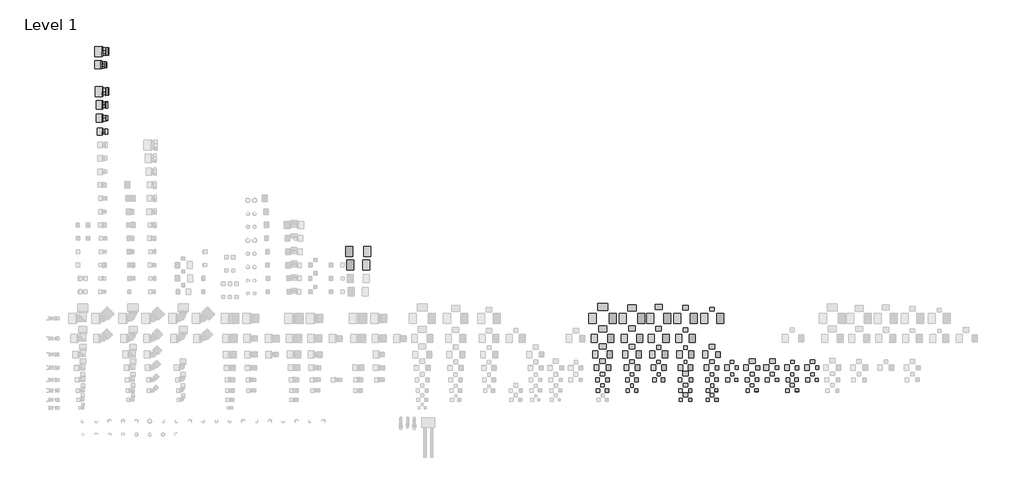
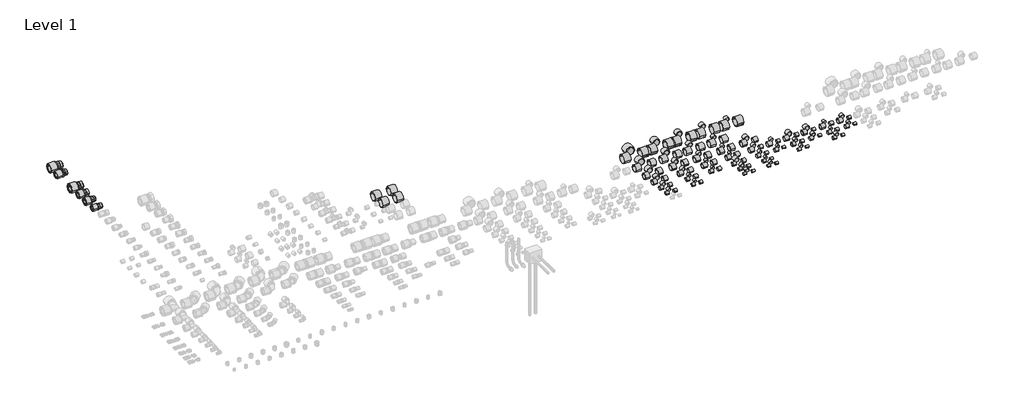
# One storey, part 5 of 6: 142 pipe fittings.
"""IFC4 building model written with IfcOpenShell, lengths in millimetres."""

from ifc_helpers import new_model, si_unit, origin, place, context, project, spatial, transform, mapped, element, save
from components import pipe_fitting_c9c9eba3, pipe_fitting_749d9a03, pipe_fitting_037c3912, pipe_fitting_a8fbe6ac, pipe_fitting_d8f8e9d9, pipe_fitting_02b715f6, pipe_fitting_7a5bf8d1, pipe_fitting_925a95b2, pipe_fitting_cb618aad, pipe_fitting_878e7421, pipe_fitting_f8923636, pipe_fitting_52084734, pipe_fitting_da2ed738, pipe_fitting_f9c75b4c, pipe_fitting_1aa5390b, pipe_fitting_51f131a0

model = new_model("IFC4")

# Units and contexts
model_context = context("Model", 3, world=origin())
ifc_project = project(units=[si_unit("LENGTHUNIT", "METRE", prefix="MILLI")], contexts=[model_context])

# Site, building, storey
site = spatial("IfcSite", under=ifc_project)
building = spatial("IfcBuilding", under=site)
storey = spatial("IfcBuildingStorey", under=building, Name="Level 1", Elevation=0.0)

# Pipe fittings
placement = place(None, origin())
pipe_fitting_shape = pipe_fitting_c9c9eba3(model_context)
element("IfcPipeFitting", 1, ObjectType="RAUTITAN_Sleeve PX : RTI S PX", at=placement, inside=storey, context=model_context, shape_type="MappedRepresentation", body=[
    mapped(pipe_fitting_shape, transform((4110.0, 155.0, 0.0), x_axis=(0.0, 1.0, 0.0), y_axis=(-1.0, 0.0, 0.0), z_axis=(0.0, 0.0, 1.0))),
])
element("IfcPipeFitting", 2, ObjectType="RAUTITAN_Sleeve PX : RTI S PX", at=placement, inside=storey, context=model_context, shape_type="MappedRepresentation", body=[
    mapped(pipe_fitting_shape, transform((4310.0, 238.0, 0.0), x_axis=(0.0, 1.0, 0.0), y_axis=(-1.0, 0.0, 0.0), z_axis=(0.0, 0.0, 1.0))),
])
element("IfcPipeFitting", 3, ObjectType="RAUTITAN_Sleeve PX : RTI S PX", at=placement, inside=storey, context=model_context, shape_type="MappedRepresentation", body=[
    mapped(pipe_fitting_shape, transform((4510.0, 331.5, 0.0), x_axis=(0.0, 1.0, 0.0), y_axis=(-1.0, 0.0, 0.0), z_axis=(0.0, 0.0, 1.0))),
])
element("IfcPipeFitting", 4, ObjectType="RAUTITAN_Sleeve PX : RTI S PX", at=placement, inside=storey, context=model_context, shape_type="MappedRepresentation", body=[
    mapped(pipe_fitting_shape, transform((4487.0, 60.0, 0.0), x_axis=(-1.0, 0.0, 0.0), y_axis=(0.0, -1.0, 0.0), z_axis=(0.0, 0.0, 1.0))),
])
element("IfcPipeFitting", 5, ObjectType="RAUTITAN_Sleeve PX : RTI S PX", at=placement, inside=storey, context=model_context, shape_type="MappedRepresentation", body=[
    mapped(pipe_fitting_shape, transform((4533.0, 60.0, 0.0), x_axis=(1.0, 0.0, 0.0), y_axis=(0.0, 1.0, 0.0), z_axis=(0.0, 0.0, 1.0))),
])
element("IfcPipeFitting", 6, ObjectType="RAUTITAN_Sleeve PX : RTI S PX", at=placement, inside=storey, context=model_context, shape_type="MappedRepresentation", body=[
    mapped(pipe_fitting_shape, transform((4689.5, 60.0, 0.0), x_axis=(-1.0, 0.0, 0.0), y_axis=(0.0, -1.0, 0.0), z_axis=(0.0, 0.0, 1.0))),
])
element("IfcPipeFitting", 7, ObjectType="RAUTITAN_Sleeve PX : RTI S PX", at=placement, inside=storey, context=model_context, shape_type="MappedRepresentation", body=[
    mapped(pipe_fitting_shape, transform((4730.5, 60.0, 0.0), x_axis=(1.0, 0.0, 0.0), y_axis=(0.0, 1.0, 0.0), z_axis=(0.0, 0.0, 1.0))),
])
element("IfcPipeFitting", 8, ObjectType="RAUTITAN_Sleeve PX : RTI S PX", at=placement, inside=storey, context=model_context, shape_type="MappedRepresentation", body=[
    mapped(pipe_fitting_shape, transform((4710.0, 155.0, 0.0), x_axis=(0.0, 1.0, 0.0), y_axis=(-1.0, 0.0, 0.0), z_axis=(0.0, 0.0, 1.0))),
])
element("IfcPipeFitting", 9, ObjectType="RAUTITAN_Sleeve PX : RTI S PX", at=placement, inside=storey, context=model_context, shape_type="MappedRepresentation", body=[
    mapped(pipe_fitting_shape, transform((4729.0, 130.0, 0.0), x_axis=(1.0, 0.0, 0.0), y_axis=(0.0, 1.0, 0.0), z_axis=(0.0, 0.0, 1.0))),
])
element("IfcPipeFitting", 10, ObjectType="RAUTITAN_Sleeve PX : RTI S PX", at=placement, inside=storey, context=model_context, shape_type="MappedRepresentation", body=[
    mapped(pipe_fitting_shape, transform((4860.0, 238.0, 0.0), x_axis=(0.0, 1.0, 0.0), y_axis=(-1.0, 0.0, 0.0), z_axis=(0.0, 0.0, 1.0))),
])
element("IfcPipeFitting", 11, ObjectType="RAUTITAN_Sleeve PX : RTI S PX", at=placement, inside=storey, context=model_context, shape_type="MappedRepresentation", body=[
    mapped(pipe_fitting_shape, transform((4879.0, 210.0, 0.0), x_axis=(1.0, 0.0, 0.0), y_axis=(0.0, 1.0, 0.0), z_axis=(0.0, 0.0, 1.0))),
])
element("IfcPipeFitting", 12, ObjectType="RAUTITAN_Sleeve PX : RTI S PX", at=placement, inside=storey, context=model_context, shape_type="MappedRepresentation", body=[
    mapped(pipe_fitting_shape, transform((5030.5, 130.0, 0.0), x_axis=(1.0, 0.0, 0.0), y_axis=(0.0, 1.0, 0.0), z_axis=(0.0, 0.0, 1.0))),
])
element("IfcPipeFitting", 13, ObjectType="RAUTITAN_Sleeve PX : RTI S PX", at=placement, inside=storey, context=model_context, shape_type="MappedRepresentation", body=[
    mapped(pipe_fitting_shape, transform((5183.0, 210.0, 0.0), x_axis=(1.0, 0.0, 0.0), y_axis=(0.0, 1.0, 0.0), z_axis=(0.0, 0.0, 1.0))),
])
element("IfcPipeFitting", 14, ObjectType="RAUTITAN_Sleeve PX : RTI S PX", at=placement, inside=storey, context=model_context, shape_type="MappedRepresentation", body=[
    mapped(pipe_fitting_shape, transform((5333.0, 130.0, 0.0), x_axis=(1.0, 0.0, 0.0), y_axis=(0.0, 1.0, 0.0), z_axis=(0.0, 0.0, 1.0))),
])
element("IfcPipeFitting", 15, ObjectType="RAUTITAN_Sleeve PX : RTI S PX", at=placement, inside=storey, context=model_context, shape_type="MappedRepresentation", body=[
    mapped(pipe_fitting_shape, transform((5310.0, 238.0, 0.0), x_axis=(0.0, 1.0, 0.0), y_axis=(-1.0, 0.0, 0.0), z_axis=(0.0, 0.0, 1.0))),
])
element("IfcPipeFitting", 16, ObjectType="RAUTITAN_Sleeve PX : RTI S PX", at=placement, inside=storey, context=model_context, shape_type="MappedRepresentation", body=[
    mapped(pipe_fitting_shape, transform((5480.5, 210.0, 0.0), x_axis=(1.0, 0.0, 0.0), y_axis=(0.0, 1.0, 0.0), z_axis=(0.0, 0.0, 1.0))),
])
pipe_fitting_2_shape = pipe_fitting_749d9a03(model_context)
element("IfcPipeFitting", 17, ObjectType="RAUTITAN_Sleeve PX : RTI S PX", at=placement, inside=storey, context=model_context, shape_type="MappedRepresentation", body=[
    mapped(pipe_fitting_2_shape, transform((3868.9, 130.0, 0.0), x_axis=(-1.0, 0.0, 0.0), y_axis=(0.0, -1.0, 0.0), z_axis=(0.0, 0.0, 1.0))),
])
element("IfcPipeFitting", 18, ObjectType="RAUTITAN_Sleeve PX : RTI S PX", at=placement, inside=storey, context=model_context, shape_type="MappedRepresentation", body=[
    mapped(pipe_fitting_2_shape, transform((3890.0, 155.6, 0.0), x_axis=(0.0, 1.0, 0.0), y_axis=(-1.0, 0.0, 0.0), z_axis=(0.0, 0.0, 1.0))),
])
element("IfcPipeFitting", 19, ObjectType="RAUTITAN_Sleeve PX : RTI S PX", at=placement, inside=storey, context=model_context, shape_type="MappedRepresentation", body=[
    mapped(pipe_fitting_2_shape, transform((3911.1, 130.0, 0.0), x_axis=(1.0, 0.0, 0.0), y_axis=(0.0, 1.0, 0.0), z_axis=(0.0, 0.0, 1.0))),
])
element("IfcPipeFitting", 20, ObjectType="RAUTITAN_Sleeve PX : RTI S PX", at=placement, inside=storey, context=model_context, shape_type="MappedRepresentation", body=[
    mapped(pipe_fitting_2_shape, transform((4090.9, 130.0, 0.0), x_axis=(-1.0, 0.0, 0.0), y_axis=(0.0, -1.0, 0.0), z_axis=(0.0, 0.0, 1.0))),
])
element("IfcPipeFitting", 21, ObjectType="RAUTITAN_Sleeve PX : RTI S PX", at=placement, inside=storey, context=model_context, shape_type="MappedRepresentation", body=[
    mapped(pipe_fitting_2_shape, transform((4129.1, 130.0, 0.0), x_axis=(1.0, 0.0, 0.0), y_axis=(0.0, 1.0, 0.0), z_axis=(0.0, 0.0, 1.0))),
])
element("IfcPipeFitting", 22, ObjectType="RAUTITAN_Sleeve PX : RTI S PX", at=placement, inside=storey, context=model_context, shape_type="MappedRepresentation", body=[
    mapped(pipe_fitting_2_shape, transform((4110.0, 238.6, 0.0), x_axis=(0.0, 1.0, 0.0), y_axis=(-1.0, 0.0, 0.0), z_axis=(0.0, 0.0, 1.0))),
])
element("IfcPipeFitting", 23, ObjectType="RAUTITAN_Sleeve PX : RTI S PX", at=placement, inside=storey, context=model_context, shape_type="MappedRepresentation", body=[
    mapped(pipe_fitting_2_shape, transform((4310.0, 332.1, 0.0), x_axis=(0.0, 1.0, 0.0), y_axis=(-1.0, 0.0, 0.0), z_axis=(0.0, 0.0, 1.0))),
])
element("IfcPipeFitting", 24, ObjectType="RAUTITAN_Sleeve PX : RTI S PX", at=placement, inside=storey, context=model_context, shape_type="MappedRepresentation", body=[
    mapped(pipe_fitting_2_shape, transform((4510.0, 439.6, 0.0), x_axis=(0.0, 1.0, 0.0), y_axis=(-1.0, 0.0, 0.0), z_axis=(0.0, 0.0, 1.0))),
])
element("IfcPipeFitting", 25, ObjectType="RAUTITAN_Sleeve PX : RTI S PX", at=placement, inside=storey, context=model_context, shape_type="MappedRepresentation", body=[
    mapped(pipe_fitting_2_shape, transform((4710.0, 83.6, 0.0), x_axis=(0.0, 1.0, 0.0), y_axis=(-1.0, 0.0, 0.0), z_axis=(0.0, 0.0, 1.0))),
])
element("IfcPipeFitting", 26, ObjectType="RAUTITAN_Sleeve PX : RTI S PX", at=placement, inside=storey, context=model_context, shape_type="MappedRepresentation", body=[
    mapped(pipe_fitting_2_shape, transform((4486.4, 130.0, 0.0), x_axis=(-1.0, 0.0, 0.0), y_axis=(0.0, -1.0, 0.0), z_axis=(0.0, 0.0, 1.0))),
])
element("IfcPipeFitting", 27, ObjectType="RAUTITAN_Sleeve PX : RTI S PX", at=placement, inside=storey, context=model_context, shape_type="MappedRepresentation", body=[
    mapped(pipe_fitting_2_shape, transform((4533.6, 130.0, 0.0), x_axis=(1.0, 0.0, 0.0), y_axis=(0.0, 1.0, 0.0), z_axis=(0.0, 0.0, 1.0))),
])
element("IfcPipeFitting", 28, ObjectType="RAUTITAN_Sleeve PX : RTI S PX", at=placement, inside=storey, context=model_context, shape_type="MappedRepresentation", body=[
    mapped(pipe_fitting_2_shape, transform((4690.9, 130.0, 0.0), x_axis=(-1.0, 0.0, 0.0), y_axis=(0.0, -1.0, 0.0), z_axis=(0.0, 0.0, 1.0))),
])
element("IfcPipeFitting", 29, ObjectType="RAUTITAN_Sleeve PX : RTI S PX", at=placement, inside=storey, context=model_context, shape_type="MappedRepresentation", body=[
    mapped(pipe_fitting_2_shape, transform((4710.0, 238.6, 0.0), x_axis=(0.0, 1.0, 0.0), y_axis=(-1.0, 0.0, 0.0), z_axis=(0.0, 0.0, 1.0))),
])
element("IfcPipeFitting", 30, ObjectType="RAUTITAN_Sleeve PX : RTI S PX", at=placement, inside=storey, context=model_context, shape_type="MappedRepresentation", body=[
    mapped(pipe_fitting_2_shape, transform((4731.1, 210.0, 0.0), x_axis=(1.0, 0.0, 0.0), y_axis=(0.0, 1.0, 0.0), z_axis=(0.0, 0.0, 1.0))),
])
element("IfcPipeFitting", 31, ObjectType="RAUTITAN_Sleeve PX : RTI S PX", at=placement, inside=storey, context=model_context, shape_type="MappedRepresentation", body=[
    mapped(pipe_fitting_2_shape, transform((4860.0, 332.1, 0.0), x_axis=(0.0, 1.0, 0.0), y_axis=(-1.0, 0.0, 0.0), z_axis=(0.0, 0.0, 1.0))),
])
element("IfcPipeFitting", 32, ObjectType="RAUTITAN_Sleeve PX : RTI S PX", at=placement, inside=storey, context=model_context, shape_type="MappedRepresentation", body=[
    mapped(pipe_fitting_2_shape, transform((4881.1, 300.0, 0.0), x_axis=(1.0, 0.0, 0.0), y_axis=(0.0, 1.0, 0.0), z_axis=(0.0, 0.0, 1.0))),
])
element("IfcPipeFitting", 33, ObjectType="RAUTITAN_Sleeve PX : RTI S PX", at=placement, inside=storey, context=model_context, shape_type="MappedRepresentation", body=[
    mapped(pipe_fitting_2_shape, transform((4988.9, 130.0, 0.0), x_axis=(-1.0, 0.0, 0.0), y_axis=(0.0, -1.0, 0.0), z_axis=(0.0, 0.0, 1.0))),
])
element("IfcPipeFitting", 34, ObjectType="RAUTITAN_Sleeve PX : RTI S PX", at=placement, inside=storey, context=model_context, shape_type="MappedRepresentation", body=[
    mapped(pipe_fitting_2_shape, transform((5010.0, 155.6, 0.0), x_axis=(0.0, 1.0, 0.0), y_axis=(-1.0, 0.0, 0.0), z_axis=(0.0, 0.0, 1.0))),
])
element("IfcPipeFitting", 35, ObjectType="RAUTITAN_Sleeve PX : RTI S PX", at=placement, inside=storey, context=model_context, shape_type="MappedRepresentation", body=[
    mapped(pipe_fitting_2_shape, transform((5033.6, 210.0, 0.0), x_axis=(1.0, 0.0, 0.0), y_axis=(0.0, 1.0, 0.0), z_axis=(0.0, 0.0, 1.0))),
])
element("IfcPipeFitting", 36, ObjectType="RAUTITAN_Sleeve PX : RTI S PX", at=placement, inside=storey, context=model_context, shape_type="MappedRepresentation", body=[
    mapped(pipe_fitting_2_shape, transform((5182.6, 300.0, 0.0), x_axis=(1.0, 0.0, 0.0), y_axis=(0.0, 1.0, 0.0), z_axis=(0.0, 0.0, 1.0))),
])
element("IfcPipeFitting", 37, ObjectType="RAUTITAN_Sleeve PX : RTI S PX", at=placement, inside=storey, context=model_context, shape_type="MappedRepresentation", body=[
    mapped(pipe_fitting_2_shape, transform((5286.4, 130.0, 0.0), x_axis=(-1.0, 0.0, 0.0), y_axis=(0.0, -1.0, 0.0), z_axis=(0.0, 0.0, 1.0))),
])
element("IfcPipeFitting", 38, ObjectType="RAUTITAN_Sleeve PX : RTI S PX", at=placement, inside=storey, context=model_context, shape_type="MappedRepresentation", body=[
    mapped(pipe_fitting_2_shape, transform((5329.1, 210.0, 0.0), x_axis=(1.0, 0.0, 0.0), y_axis=(0.0, 1.0, 0.0), z_axis=(0.0, 0.0, 1.0))),
])
element("IfcPipeFitting", 39, ObjectType="RAUTITAN_Sleeve PX : RTI S PX", at=placement, inside=storey, context=model_context, shape_type="MappedRepresentation", body=[
    mapped(pipe_fitting_2_shape, transform((5310.0, 332.1, 0.0), x_axis=(0.0, 1.0, 0.0), y_axis=(-1.0, 0.0, 0.0), z_axis=(0.0, 0.0, 1.0))),
])
element("IfcPipeFitting", 40, ObjectType="RAUTITAN_Sleeve PX : RTI S PX", at=placement, inside=storey, context=model_context, shape_type="MappedRepresentation", body=[
    mapped(pipe_fitting_2_shape, transform((5460.0, 238.6, 0.0), x_axis=(0.0, 1.0, 0.0), y_axis=(-1.0, 0.0, 0.0), z_axis=(0.0, 0.0, 1.0))),
])
element("IfcPipeFitting", 41, ObjectType="RAUTITAN_Sleeve PX : RTI S PX", at=placement, inside=storey, context=model_context, shape_type="MappedRepresentation", body=[
    mapped(pipe_fitting_2_shape, transform((5483.6, 300.0, 0.0), x_axis=(1.0, 0.0, 0.0), y_axis=(0.0, 1.0, 0.0), z_axis=(0.0, 0.0, 1.0))),
])
pipe_fitting_3_shape = pipe_fitting_037c3912(model_context)
element("IfcPipeFitting", 42, ObjectType="RAUTITAN_Sleeve PX : RTI S PX", at=placement, inside=storey, context=model_context, shape_type="MappedRepresentation", body=[
    mapped(pipe_fitting_3_shape, transform((3866.2, 210.0, 0.0), x_axis=(-1.0, 0.0, 0.0), y_axis=(0.0, -1.0, 0.0), z_axis=(0.0, 0.0, 1.0))),
])
element("IfcPipeFitting", 43, ObjectType="RAUTITAN_Sleeve PX : RTI S PX", at=placement, inside=storey, context=model_context, shape_type="MappedRepresentation", body=[
    mapped(pipe_fitting_3_shape, transform((3890.0, 238.8, 0.0), x_axis=(0.0, 1.0, 0.0), y_axis=(-1.0, 0.0, 0.0), z_axis=(0.0, 0.0, 1.0))),
])
element("IfcPipeFitting", 44, ObjectType="RAUTITAN_Sleeve PX : RTI S PX", at=placement, inside=storey, context=model_context, shape_type="MappedRepresentation", body=[
    mapped(pipe_fitting_3_shape, transform((3913.8, 210.0, 0.0), x_axis=(1.0, 0.0, 0.0), y_axis=(0.0, 1.0, 0.0), z_axis=(0.0, 0.0, 1.0))),
])
element("IfcPipeFitting", 45, ObjectType="RAUTITAN_Sleeve PX : RTI S PX", at=placement, inside=storey, context=model_context, shape_type="MappedRepresentation", body=[
    mapped(pipe_fitting_3_shape, transform((4088.7, 210.0, 0.0), x_axis=(-1.0, 0.0, 0.0), y_axis=(0.0, -1.0, 0.0), z_axis=(0.0, 0.0, 1.0))),
])
element("IfcPipeFitting", 46, ObjectType="RAUTITAN_Sleeve PX : RTI S PX", at=placement, inside=storey, context=model_context, shape_type="MappedRepresentation", body=[
    mapped(pipe_fitting_3_shape, transform((4131.3, 210.0, 0.0), x_axis=(1.0, 0.0, 0.0), y_axis=(0.0, 1.0, 0.0), z_axis=(0.0, 0.0, 1.0))),
])
element("IfcPipeFitting", 47, ObjectType="RAUTITAN_Sleeve PX : RTI S PX", at=placement, inside=storey, context=model_context, shape_type="MappedRepresentation", body=[
    mapped(pipe_fitting_3_shape, transform((4110.0, 332.3, 0.0), x_axis=(0.0, 1.0, 0.0), y_axis=(-1.0, 0.0, 0.0), z_axis=(0.0, 0.0, 1.0))),
])
element("IfcPipeFitting", 48, ObjectType="RAUTITAN_Sleeve PX : RTI S PX", at=placement, inside=storey, context=model_context, shape_type="MappedRepresentation", body=[
    mapped(pipe_fitting_3_shape, transform((4290.7, 210.0, 0.0), x_axis=(-1.0, 0.0, 0.0), y_axis=(0.0, -1.0, 0.0), z_axis=(0.0, 0.0, 1.0))),
])
element("IfcPipeFitting", 49, ObjectType="RAUTITAN_Sleeve PX : RTI S PX", at=placement, inside=storey, context=model_context, shape_type="MappedRepresentation", body=[
    mapped(pipe_fitting_3_shape, transform((4329.3, 210.0, 0.0), x_axis=(1.0, 0.0, 0.0), y_axis=(0.0, 1.0, 0.0), z_axis=(0.0, 0.0, 1.0))),
])
element("IfcPipeFitting", 50, ObjectType="RAUTITAN_Sleeve PX : RTI S PX", at=placement, inside=storey, context=model_context, shape_type="MappedRepresentation", body=[
    mapped(pipe_fitting_3_shape, transform((4310.0, 439.8, 0.0), x_axis=(0.0, 1.0, 0.0), y_axis=(-1.0, 0.0, 0.0), z_axis=(0.0, 0.0, 1.0))),
])
element("IfcPipeFitting", 51, ObjectType="RAUTITAN_Sleeve PX : RTI S PX", at=placement, inside=storey, context=model_context, shape_type="MappedRepresentation", body=[
    mapped(pipe_fitting_3_shape, transform((4510.0, 83.8, 0.0), x_axis=(0.0, 1.0, 0.0), y_axis=(-1.0, 0.0, 0.0), z_axis=(0.0, 0.0, 1.0))),
])
element("IfcPipeFitting", 52, ObjectType="RAUTITAN_Sleeve PX : RTI S PX", at=placement, inside=storey, context=model_context, shape_type="MappedRepresentation", body=[
    mapped(pipe_fitting_3_shape, transform((4510.0, 155.8, 0.0), x_axis=(0.0, 1.0, 0.0), y_axis=(-1.0, 0.0, 0.0), z_axis=(0.0, 0.0, 1.0))),
])
element("IfcPipeFitting", 53, ObjectType="RAUTITAN_Sleeve PX : RTI S PX", at=placement, inside=storey, context=model_context, shape_type="MappedRepresentation", body=[
    mapped(pipe_fitting_3_shape, transform((4482.7, 210.0, 0.0), x_axis=(-1.0, 0.0, 0.0), y_axis=(0.0, -1.0, 0.0), z_axis=(0.0, 0.0, 1.0))),
])
element("IfcPipeFitting", 54, ObjectType="RAUTITAN_Sleeve PX : RTI S PX", at=placement, inside=storey, context=model_context, shape_type="MappedRepresentation", body=[
    mapped(pipe_fitting_3_shape, transform((4537.3, 210.0, 0.0), x_axis=(1.0, 0.0, 0.0), y_axis=(0.0, 1.0, 0.0), z_axis=(0.0, 0.0, 1.0))),
])
element("IfcPipeFitting", 55, ObjectType="RAUTITAN_Sleeve PX : RTI S PX", at=placement, inside=storey, context=model_context, shape_type="MappedRepresentation", body=[
    mapped(pipe_fitting_3_shape, transform((4688.7, 210.0, 0.0), x_axis=(-1.0, 0.0, 0.0), y_axis=(0.0, -1.0, 0.0), z_axis=(0.0, 0.0, 1.0))),
])
element("IfcPipeFitting", 56, ObjectType="RAUTITAN_Sleeve PX : RTI S PX", at=placement, inside=storey, context=model_context, shape_type="MappedRepresentation", body=[
    mapped(pipe_fitting_3_shape, transform((4710.0, 332.3, 0.0), x_axis=(0.0, 1.0, 0.0), y_axis=(-1.0, 0.0, 0.0), z_axis=(0.0, 0.0, 1.0))),
])
element("IfcPipeFitting", 57, ObjectType="RAUTITAN_Sleeve PX : RTI S PX", at=placement, inside=storey, context=model_context, shape_type="MappedRepresentation", body=[
    mapped(pipe_fitting_3_shape, transform((4733.8, 300.0, 0.0), x_axis=(1.0, 0.0, 0.0), y_axis=(0.0, 1.0, 0.0), z_axis=(0.0, 0.0, 1.0))),
])
element("IfcPipeFitting", 58, ObjectType="RAUTITAN_Sleeve PX : RTI S PX", at=placement, inside=storey, context=model_context, shape_type="MappedRepresentation", body=[
    mapped(pipe_fitting_3_shape, transform((4840.7, 210.0, 0.0), x_axis=(-1.0, 0.0, 0.0), y_axis=(0.0, -1.0, 0.0), z_axis=(0.0, 0.0, 1.0))),
])
element("IfcPipeFitting", 59, ObjectType="RAUTITAN_Sleeve PX : RTI S PX", at=placement, inside=storey, context=model_context, shape_type="MappedRepresentation", body=[
    mapped(pipe_fitting_3_shape, transform((4986.2, 210.0, 0.0), x_axis=(-1.0, 0.0, 0.0), y_axis=(0.0, -1.0, 0.0), z_axis=(0.0, 0.0, 1.0))),
])
element("IfcPipeFitting", 60, ObjectType="RAUTITAN_Sleeve PX : RTI S PX", at=placement, inside=storey, context=model_context, shape_type="MappedRepresentation", body=[
    mapped(pipe_fitting_3_shape, transform((5010.0, 238.8, 0.0), x_axis=(0.0, 1.0, 0.0), y_axis=(-1.0, 0.0, 0.0), z_axis=(0.0, 0.0, 1.0))),
])
element("IfcPipeFitting", 61, ObjectType="RAUTITAN_Sleeve PX : RTI S PX", at=placement, inside=storey, context=model_context, shape_type="MappedRepresentation", body=[
    mapped(pipe_fitting_3_shape, transform((5037.3, 300.0, 0.0), x_axis=(1.0, 0.0, 0.0), y_axis=(0.0, 1.0, 0.0), z_axis=(0.0, 0.0, 1.0))),
])
element("IfcPipeFitting", 62, ObjectType="RAUTITAN_Sleeve PX : RTI S PX", at=placement, inside=storey, context=model_context, shape_type="MappedRepresentation", body=[
    mapped(pipe_fitting_3_shape, transform((5136.2, 210.0, 0.0), x_axis=(-1.0, 0.0, 0.0), y_axis=(0.0, -1.0, 0.0), z_axis=(0.0, 0.0, 1.0))),
])
element("IfcPipeFitting", 63, ObjectType="RAUTITAN_Sleeve PX : RTI S PX", at=placement, inside=storey, context=model_context, shape_type="MappedRepresentation", body=[
    mapped(pipe_fitting_3_shape, transform((5160.0, 238.8, 0.0), x_axis=(0.0, 1.0, 0.0), y_axis=(-1.0, 0.0, 0.0), z_axis=(0.0, 0.0, 1.0))),
])
element("IfcPipeFitting", 64, ObjectType="RAUTITAN_Sleeve PX : RTI S PX", at=placement, inside=storey, context=model_context, shape_type="MappedRepresentation", body=[
    mapped(pipe_fitting_3_shape, transform((5310.0, 155.8, 0.0), x_axis=(0.0, 1.0, 0.0), y_axis=(-1.0, 0.0, 0.0), z_axis=(0.0, 0.0, 1.0))),
])
element("IfcPipeFitting", 65, ObjectType="RAUTITAN_Sleeve PX : RTI S PX", at=placement, inside=storey, context=model_context, shape_type="MappedRepresentation", body=[
    mapped(pipe_fitting_3_shape, transform((5290.7, 210.0, 0.0), x_axis=(-1.0, 0.0, 0.0), y_axis=(0.0, -1.0, 0.0), z_axis=(0.0, 0.0, 1.0))),
])
element("IfcPipeFitting", 66, ObjectType="RAUTITAN_Sleeve PX : RTI S PX", at=placement, inside=storey, context=model_context, shape_type="MappedRepresentation", body=[
    mapped(pipe_fitting_3_shape, transform((5331.3, 300.0, 0.0), x_axis=(1.0, 0.0, 0.0), y_axis=(0.0, 1.0, 0.0), z_axis=(0.0, 0.0, 1.0))),
])
element("IfcPipeFitting", 67, ObjectType="RAUTITAN_Sleeve PX : RTI S PX", at=placement, inside=storey, context=model_context, shape_type="MappedRepresentation", body=[
    mapped(pipe_fitting_3_shape, transform((5438.7, 210.0, 0.0), x_axis=(-1.0, 0.0, 0.0), y_axis=(0.0, -1.0, 0.0), z_axis=(0.0, 0.0, 1.0))),
])
element("IfcPipeFitting", 68, ObjectType="RAUTITAN_Sleeve PX : RTI S PX", at=placement, inside=storey, context=model_context, shape_type="MappedRepresentation", body=[
    mapped(pipe_fitting_3_shape, transform((5460.0, 332.3, 0.0), x_axis=(0.0, 1.0, 0.0), y_axis=(-1.0, 0.0, 0.0), z_axis=(0.0, 0.0, 1.0))),
])
element("IfcPipeFitting", 69, ObjectType="RAUTITAN_Sleeve PX : RTI S PX", at=placement, inside=storey, context=model_context, shape_type="MappedRepresentation", body=[
    mapped(pipe_fitting_3_shape, transform((4710.0, 724.8, 0.0), x_axis=(0.0, 1.0, 0.0), y_axis=(-1.0, 0.0, 0.0), z_axis=(0.0, 0.0, 1.0))),
])
element("IfcPipeFitting", 70, ObjectType="RAUTITAN_Sleeve PX : RTI S PX", at=placement, inside=storey, context=model_context, shape_type="MappedRepresentation", body=[
    mapped(pipe_fitting_3_shape, transform((4510.0, 570.8, 0.0), x_axis=(0.0, 1.0, 0.0), y_axis=(-1.0, 0.0, 0.0), z_axis=(0.0, 0.0, 1.0))),
])
pipe_fitting_4_shape = pipe_fitting_a8fbe6ac(model_context)
element("IfcPipeFitting", 71, ObjectType="RAUTITAN_Sleeve PX : RTI S PX", at=placement, inside=storey, context=model_context, shape_type="MappedRepresentation", body=[
    mapped(pipe_fitting_4_shape, transform((3862.0, 300.0, 0.0), x_axis=(-1.0, 0.0, 0.0), y_axis=(0.0, -1.0, 0.0), z_axis=(0.0, 0.0, 1.0))),
])
element("IfcPipeFitting", 72, ObjectType="RAUTITAN_Sleeve PX : RTI S PX", at=placement, inside=storey, context=model_context, shape_type="MappedRepresentation", body=[
    mapped(pipe_fitting_4_shape, transform((3890.0, 333.0, 0.0), x_axis=(0.0, 1.0, 0.0), y_axis=(-1.0, 0.0, 0.0), z_axis=(0.0, 0.0, 1.0))),
])
element("IfcPipeFitting", 73, ObjectType="RAUTITAN_Sleeve PX : RTI S PX", at=placement, inside=storey, context=model_context, shape_type="MappedRepresentation", body=[
    mapped(pipe_fitting_4_shape, transform((3918.0, 300.0, 0.0), x_axis=(1.0, 0.0, 0.0), y_axis=(0.0, 1.0, 0.0), z_axis=(0.0, 0.0, 1.0))),
])
element("IfcPipeFitting", 74, ObjectType="RAUTITAN_Sleeve PX : RTI S PX", at=placement, inside=storey, context=model_context, shape_type="MappedRepresentation", body=[
    mapped(pipe_fitting_4_shape, transform((4085.5, 300.0, 0.0), x_axis=(-1.0, 0.0, 0.0), y_axis=(0.0, -1.0, 0.0), z_axis=(0.0, 0.0, 1.0))),
])
element("IfcPipeFitting", 75, ObjectType="RAUTITAN_Sleeve PX : RTI S PX", at=placement, inside=storey, context=model_context, shape_type="MappedRepresentation", body=[
    mapped(pipe_fitting_4_shape, transform((4134.5, 300.0, 0.0), x_axis=(1.0, 0.0, 0.0), y_axis=(0.0, 1.0, 0.0), z_axis=(0.0, 0.0, 1.0))),
])
element("IfcPipeFitting", 76, ObjectType="RAUTITAN_Sleeve PX : RTI S PX", at=placement, inside=storey, context=model_context, shape_type="MappedRepresentation", body=[
    mapped(pipe_fitting_4_shape, transform((4110.0, 440.5, 0.0), x_axis=(0.0, 1.0, 0.0), y_axis=(-1.0, 0.0, 0.0), z_axis=(0.0, 0.0, 1.0))),
])
element("IfcPipeFitting", 77, ObjectType="RAUTITAN_Sleeve PX : RTI S PX", at=placement, inside=storey, context=model_context, shape_type="MappedRepresentation", body=[
    mapped(pipe_fitting_4_shape, transform((4288.0, 300.0, 0.0), x_axis=(-1.0, 0.0, 0.0), y_axis=(0.0, -1.0, 0.0), z_axis=(0.0, 0.0, 1.0))),
])
element("IfcPipeFitting", 78, ObjectType="RAUTITAN_Sleeve PX : RTI S PX", at=placement, inside=storey, context=model_context, shape_type="MappedRepresentation", body=[
    mapped(pipe_fitting_4_shape, transform((4332.0, 300.0, 0.0), x_axis=(1.0, 0.0, 0.0), y_axis=(0.0, 1.0, 0.0), z_axis=(0.0, 0.0, 1.0))),
])
element("IfcPipeFitting", 79, ObjectType="RAUTITAN_Sleeve PX : RTI S PX", at=placement, inside=storey, context=model_context, shape_type="MappedRepresentation", body=[
    mapped(pipe_fitting_4_shape, transform((4490.0, 300.0, 0.0), x_axis=(-1.0, 0.0, 0.0), y_axis=(0.0, -1.0, 0.0), z_axis=(0.0, 0.0, 1.0))),
])
element("IfcPipeFitting", 80, ObjectType="RAUTITAN_Sleeve PX : RTI S PX", at=placement, inside=storey, context=model_context, shape_type="MappedRepresentation", body=[
    mapped(pipe_fitting_4_shape, transform((4530.0, 300.0, 0.0), x_axis=(1.0, 0.0, 0.0), y_axis=(0.0, 1.0, 0.0), z_axis=(0.0, 0.0, 1.0))),
])
element("IfcPipeFitting", 81, ObjectType="RAUTITAN_Sleeve PX : RTI S PX", at=placement, inside=storey, context=model_context, shape_type="MappedRepresentation", body=[
    mapped(pipe_fitting_4_shape, transform((4510.0, 239.5, 0.0), x_axis=(0.0, 1.0, 0.0), y_axis=(-1.0, 0.0, 0.0), z_axis=(0.0, 0.0, 1.0))),
])
element("IfcPipeFitting", 82, ObjectType="RAUTITAN_Sleeve PX : RTI S PX", at=placement, inside=storey, context=model_context, shape_type="MappedRepresentation", body=[
    mapped(pipe_fitting_4_shape, transform((4685.5, 300.0, 0.0), x_axis=(-1.0, 0.0, 0.0), y_axis=(0.0, -1.0, 0.0), z_axis=(0.0, 0.0, 1.0))),
])
element("IfcPipeFitting", 83, ObjectType="RAUTITAN_Sleeve PX : RTI S PX", at=placement, inside=storey, context=model_context, shape_type="MappedRepresentation", body=[
    mapped(pipe_fitting_4_shape, transform((4710.0, 440.5, 0.0), x_axis=(0.0, 1.0, 0.0), y_axis=(-1.0, 0.0, 0.0), z_axis=(0.0, 0.0, 1.0))),
])
element("IfcPipeFitting", 84, ObjectType="RAUTITAN_Sleeve PX : RTI S PX", at=placement, inside=storey, context=model_context, shape_type="MappedRepresentation", body=[
    mapped(pipe_fitting_4_shape, transform((4738.0, 400.0, 0.0), x_axis=(1.0, 0.0, 0.0), y_axis=(0.0, 1.0, 0.0), z_axis=(0.0, 0.0, 1.0))),
])
element("IfcPipeFitting", 85, ObjectType="RAUTITAN_Sleeve PX : RTI S PX", at=placement, inside=storey, context=model_context, shape_type="MappedRepresentation", body=[
    mapped(pipe_fitting_4_shape, transform((4838.0, 300.0, 0.0), x_axis=(-1.0, 0.0, 0.0), y_axis=(0.0, -1.0, 0.0), z_axis=(0.0, 0.0, 1.0))),
])
element("IfcPipeFitting", 86, ObjectType="RAUTITAN_Sleeve PX : RTI S PX", at=placement, inside=storey, context=model_context, shape_type="MappedRepresentation", body=[
    mapped(pipe_fitting_4_shape, transform((4982.0, 300.0, 0.0), x_axis=(-1.0, 0.0, 0.0), y_axis=(0.0, -1.0, 0.0), z_axis=(0.0, 0.0, 1.0))),
])
element("IfcPipeFitting", 87, ObjectType="RAUTITAN_Sleeve PX : RTI S PX", at=placement, inside=storey, context=model_context, shape_type="MappedRepresentation", body=[
    mapped(pipe_fitting_4_shape, transform((5010.0, 333.0, 0.0), x_axis=(0.0, 1.0, 0.0), y_axis=(-1.0, 0.0, 0.0), z_axis=(0.0, 0.0, 1.0))),
])
element("IfcPipeFitting", 88, ObjectType="RAUTITAN_Sleeve PX : RTI S PX", at=placement, inside=storey, context=model_context, shape_type="MappedRepresentation", body=[
    mapped(pipe_fitting_4_shape, transform((5132.0, 300.0, 0.0), x_axis=(-1.0, 0.0, 0.0), y_axis=(0.0, -1.0, 0.0), z_axis=(0.0, 0.0, 1.0))),
])
element("IfcPipeFitting", 89, ObjectType="RAUTITAN_Sleeve PX : RTI S PX", at=placement, inside=storey, context=model_context, shape_type="MappedRepresentation", body=[
    mapped(pipe_fitting_4_shape, transform((5160.0, 333.0, 0.0), x_axis=(0.0, 1.0, 0.0), y_axis=(-1.0, 0.0, 0.0), z_axis=(0.0, 0.0, 1.0))),
])
element("IfcPipeFitting", 90, ObjectType="RAUTITAN_Sleeve PX : RTI S PX", at=placement, inside=storey, context=model_context, shape_type="MappedRepresentation", body=[
    mapped(pipe_fitting_4_shape, transform((5288.0, 300.0, 0.0), x_axis=(-1.0, 0.0, 0.0), y_axis=(0.0, -1.0, 0.0), z_axis=(0.0, 0.0, 1.0))),
])
element("IfcPipeFitting", 91, ObjectType="RAUTITAN_Sleeve PX : RTI S PX", at=placement, inside=storey, context=model_context, shape_type="MappedRepresentation", body=[
    mapped(pipe_fitting_4_shape, transform((5435.5, 300.0, 0.0), x_axis=(-1.0, 0.0, 0.0), y_axis=(0.0, -1.0, 0.0), z_axis=(0.0, 0.0, 1.0))),
])
element("IfcPipeFitting", 92, ObjectType="RAUTITAN_Sleeve PX : RTI S PX", at=placement, inside=storey, context=model_context, shape_type="MappedRepresentation", body=[
    mapped(pipe_fitting_4_shape, transform((4510.0, 732.5, 0.0), x_axis=(0.0, 1.0, 0.0), y_axis=(-1.0, 0.0, 0.0), z_axis=(0.0, 0.0, 1.0))),
])
element("IfcPipeFitting", 93, ObjectType="RAUTITAN_Sleeve PX : RTI S PX", at=placement, inside=storey, context=model_context, shape_type="MappedRepresentation", body=[
    mapped(pipe_fitting_4_shape, transform((4310.0, 575.5, 0.0), x_axis=(0.0, 1.0, 0.0), y_axis=(-1.0, 0.0, 0.0), z_axis=(0.0, 0.0, 1.0))),
])
pipe_fitting_5_shape = pipe_fitting_d8f8e9d9(model_context)
element("IfcPipeFitting", 94, ObjectType="RAUTITAN_Sleeve PX : RTI S PX", at=placement, inside=storey, context=model_context, shape_type="MappedRepresentation", body=[
    mapped(pipe_fitting_5_shape, transform((3854.5, 400.0, 0.0), x_axis=(-1.0, 0.0, 0.0), y_axis=(0.0, -1.0, 0.0), z_axis=(0.0, 0.0, 1.0))),
])
element("IfcPipeFitting", 95, ObjectType="RAUTITAN_Sleeve PX : RTI S PX", at=placement, inside=storey, context=model_context, shape_type="MappedRepresentation", body=[
    mapped(pipe_fitting_5_shape, transform((3890.0, 442.0, 0.0), x_axis=(0.0, 1.0, 0.0), y_axis=(-1.0, 0.0, 0.0), z_axis=(0.0, 0.0, 1.0))),
])
element("IfcPipeFitting", 96, ObjectType="RAUTITAN_Sleeve PX : RTI S PX", at=placement, inside=storey, context=model_context, shape_type="MappedRepresentation", body=[
    mapped(pipe_fitting_5_shape, transform((3925.5, 400.0, 0.0), x_axis=(1.0, 0.0, 0.0), y_axis=(0.0, 1.0, 0.0), z_axis=(0.0, 0.0, 1.0))),
])
element("IfcPipeFitting", 97, ObjectType="RAUTITAN_Sleeve PX : RTI S PX", at=placement, inside=storey, context=model_context, shape_type="MappedRepresentation", body=[
    mapped(pipe_fitting_5_shape, transform((4078.5, 400.0, 0.0), x_axis=(-1.0, 0.0, 0.0), y_axis=(0.0, -1.0, 0.0), z_axis=(0.0, 0.0, 1.0))),
])
element("IfcPipeFitting", 98, ObjectType="RAUTITAN_Sleeve PX : RTI S PX", at=placement, inside=storey, context=model_context, shape_type="MappedRepresentation", body=[
    mapped(pipe_fitting_5_shape, transform((4141.5, 400.0, 0.0), x_axis=(1.0, 0.0, 0.0), y_axis=(0.0, 1.0, 0.0), z_axis=(0.0, 0.0, 1.0))),
])
element("IfcPipeFitting", 99, ObjectType="RAUTITAN_Sleeve PX : RTI S PX", at=placement, inside=storey, context=model_context, shape_type="MappedRepresentation", body=[
    mapped(pipe_fitting_5_shape, transform((4282.0, 400.0, 0.0), x_axis=(-1.0, 0.0, 0.0), y_axis=(0.0, -1.0, 0.0), z_axis=(0.0, 0.0, 1.0))),
])
element("IfcPipeFitting", 100, ObjectType="RAUTITAN_Sleeve PX : RTI S PX", at=placement, inside=storey, context=model_context, shape_type="MappedRepresentation", body=[
    mapped(pipe_fitting_5_shape, transform((4338.0, 400.0, 0.0), x_axis=(1.0, 0.0, 0.0), y_axis=(0.0, 1.0, 0.0), z_axis=(0.0, 0.0, 1.0))),
])
element("IfcPipeFitting", 101, ObjectType="RAUTITAN_Sleeve PX : RTI S PX", at=placement, inside=storey, context=model_context, shape_type="MappedRepresentation", body=[
    mapped(pipe_fitting_5_shape, transform((4484.5, 400.0, 0.0), x_axis=(-1.0, 0.0, 0.0), y_axis=(0.0, -1.0, 0.0), z_axis=(0.0, 0.0, 1.0))),
])
element("IfcPipeFitting", 102, ObjectType="RAUTITAN_Sleeve PX : RTI S PX", at=placement, inside=storey, context=model_context, shape_type="MappedRepresentation", body=[
    mapped(pipe_fitting_5_shape, transform((4535.5, 400.0, 0.0), x_axis=(1.0, 0.0, 0.0), y_axis=(0.0, 1.0, 0.0), z_axis=(0.0, 0.0, 1.0))),
])
element("IfcPipeFitting", 103, ObjectType="RAUTITAN_Sleeve PX : RTI S PX", at=placement, inside=storey, context=model_context, shape_type="MappedRepresentation", body=[
    mapped(pipe_fitting_5_shape, transform((4678.5, 400.0, 0.0), x_axis=(-1.0, 0.0, 0.0), y_axis=(0.0, -1.0, 0.0), z_axis=(0.0, 0.0, 1.0))),
])
element("IfcPipeFitting", 104, ObjectType="RAUTITAN_Sleeve PX : RTI S PX", at=placement, inside=storey, context=model_context, shape_type="MappedRepresentation", body=[
    mapped(pipe_fitting_5_shape, transform((4310.0, 735.6, 0.0), x_axis=(0.0, 1.0, 0.0), y_axis=(-1.0, 0.0, 0.0), z_axis=(0.0, 0.0, 1.0))),
])
element("IfcPipeFitting", 105, ObjectType="RAUTITAN_Sleeve PX : RTI S PX", at=placement, inside=storey, context=model_context, shape_type="MappedRepresentation", body=[
    mapped(pipe_fitting_5_shape, transform((4110.0, 576.6, 0.0), x_axis=(0.0, 1.0, 0.0), y_axis=(-1.0, 0.0, 0.0), z_axis=(0.0, 0.0, 1.0))),
])
pipe_fitting_6_shape = pipe_fitting_02b715f6(model_context)
element("IfcPipeFitting", 106, ObjectType="RAUTITAN_Sleeve PX : RTI S PX", at=placement, inside=storey, context=model_context, shape_type="MappedRepresentation", body=[
    mapped(pipe_fitting_6_shape, transform((3850.0, 520.0, 0.0), x_axis=(-1.0, 0.0, 0.0), y_axis=(0.0, -1.0, 0.0), z_axis=(0.0, 0.0, 1.0))),
])
element("IfcPipeFitting", 107, ObjectType="RAUTITAN_Sleeve PX : RTI S PX", at=placement, inside=storey, context=model_context, shape_type="MappedRepresentation", body=[
    mapped(pipe_fitting_6_shape, transform((3890.0, 569.0, 0.0), x_axis=(0.0, 1.0, 0.0), y_axis=(-1.0, 0.0, 0.0), z_axis=(0.0, 0.0, 1.0))),
])
element("IfcPipeFitting", 108, ObjectType="RAUTITAN_Sleeve PX : RTI S PX", at=placement, inside=storey, context=model_context, shape_type="MappedRepresentation", body=[
    mapped(pipe_fitting_6_shape, transform((3930.0, 520.0, 0.0), x_axis=(1.0, 0.0, 0.0), y_axis=(0.0, 1.0, 0.0), z_axis=(0.0, 0.0, 1.0))),
])
element("IfcPipeFitting", 109, ObjectType="RAUTITAN_Sleeve PX : RTI S PX", at=placement, inside=storey, context=model_context, shape_type="MappedRepresentation", body=[
    mapped(pipe_fitting_6_shape, transform((4110.0, 727.0, 0.0), x_axis=(0.0, 1.0, 0.0), y_axis=(-1.0, 0.0, 0.0), z_axis=(0.0, 0.0, 1.0))),
])
element("IfcPipeFitting", 110, ObjectType="RAUTITAN_Sleeve PX : RTI S PX", at=placement, inside=storey, context=model_context, shape_type="MappedRepresentation", body=[
    mapped(pipe_fitting_6_shape, transform((4074.0, 520.0, 0.0), x_axis=(-1.0, 0.0, 0.0), y_axis=(0.0, -1.0, 0.0), z_axis=(0.0, 0.0, 1.0))),
])
element("IfcPipeFitting", 111, ObjectType="RAUTITAN_Sleeve PX : RTI S PX", at=placement, inside=storey, context=model_context, shape_type="MappedRepresentation", body=[
    mapped(pipe_fitting_6_shape, transform((4146.0, 520.0, 0.0), x_axis=(1.0, 0.0, 0.0), y_axis=(0.0, 1.0, 0.0), z_axis=(0.0, 0.0, 1.0))),
])
element("IfcPipeFitting", 112, ObjectType="RAUTITAN_Sleeve PX : RTI S PX", at=placement, inside=storey, context=model_context, shape_type="MappedRepresentation", body=[
    mapped(pipe_fitting_6_shape, transform((4278.0, 520.0, 0.0), x_axis=(-1.0, 0.0, 0.0), y_axis=(0.0, -1.0, 0.0), z_axis=(0.0, 0.0, 1.0))),
])
element("IfcPipeFitting", 113, ObjectType="RAUTITAN_Sleeve PX : RTI S PX", at=placement, inside=storey, context=model_context, shape_type="MappedRepresentation", body=[
    mapped(pipe_fitting_6_shape, transform((4342.0, 520.0, 0.0), x_axis=(1.0, 0.0, 0.0), y_axis=(0.0, 1.0, 0.0), z_axis=(0.0, 0.0, 1.0))),
])
element("IfcPipeFitting", 114, ObjectType="RAUTITAN_Sleeve PX : RTI S PX", at=placement, inside=storey, context=model_context, shape_type="MappedRepresentation", body=[
    mapped(pipe_fitting_6_shape, transform((4481.0, 520.0, 0.0), x_axis=(-1.0, 0.0, 0.0), y_axis=(0.0, -1.0, 0.0), z_axis=(0.0, 0.0, 1.0))),
])
element("IfcPipeFitting", 115, ObjectType="RAUTITAN_Sleeve PX : RTI S PX", at=placement, inside=storey, context=model_context, shape_type="MappedRepresentation", body=[
    mapped(pipe_fitting_6_shape, transform((4539.0, 520.0, 0.0), x_axis=(1.0, 0.0, 0.0), y_axis=(0.0, 1.0, 0.0), z_axis=(0.0, 0.0, 1.0))),
])
pipe_fitting_7_shape = pipe_fitting_7a5bf8d1(model_context)
element("IfcPipeFitting", 116, ObjectType="RAUTITAN_Sleeve PX : RTI S PX", at=placement, inside=storey, context=model_context, shape_type="MappedRepresentation", body=[
    mapped(pipe_fitting_7_shape, transform((3841.0, 670.0, 0.0), x_axis=(-1.0, 0.0, 0.0), y_axis=(0.0, -1.0, 0.0), z_axis=(0.0, 0.0, 1.0))),
])
element("IfcPipeFitting", 117, ObjectType="RAUTITAN_Sleeve PX : RTI S PX", at=placement, inside=storey, context=model_context, shape_type="MappedRepresentation", body=[
    mapped(pipe_fitting_7_shape, transform((3890.0, 730.0, 0.0), x_axis=(0.0, 1.0, 0.0), y_axis=(-1.0, 0.0, 0.0), z_axis=(0.0, 0.0, 1.0))),
])
element("IfcPipeFitting", 118, ObjectType="RAUTITAN_Sleeve PX : RTI S PX", at=placement, inside=storey, context=model_context, shape_type="MappedRepresentation", body=[
    mapped(pipe_fitting_7_shape, transform((3939.0, 670.0, 0.0), x_axis=(1.0, 0.0, 0.0), y_axis=(0.0, 1.0, 0.0), z_axis=(0.0, 0.0, 1.0))),
])
element("IfcPipeFitting", 119, ObjectType="RAUTITAN_Sleeve PX : RTI S PX", at=placement, inside=storey, context=model_context, shape_type="MappedRepresentation", body=[
    mapped(pipe_fitting_7_shape, transform((4067.0, 670.0, 0.0), x_axis=(-1.0, 0.0, 0.0), y_axis=(0.0, -1.0, 0.0), z_axis=(0.0, 0.0, 1.0))),
])
element("IfcPipeFitting", 120, ObjectType="RAUTITAN_Sleeve PX : RTI S PX", at=placement, inside=storey, context=model_context, shape_type="MappedRepresentation", body=[
    mapped(pipe_fitting_7_shape, transform((4153.0, 670.0, 0.0), x_axis=(1.0, 0.0, 0.0), y_axis=(0.0, 1.0, 0.0), z_axis=(0.0, 0.0, 1.0))),
])
element("IfcPipeFitting", 121, ObjectType="RAUTITAN_Sleeve PX : RTI S PX", at=placement, inside=storey, context=model_context, shape_type="MappedRepresentation", body=[
    mapped(pipe_fitting_7_shape, transform((4272.0, 670.0, 0.0), x_axis=(-1.0, 0.0, 0.0), y_axis=(0.0, -1.0, 0.0), z_axis=(0.0, 0.0, 1.0))),
])
element("IfcPipeFitting", 122, ObjectType="RAUTITAN_Sleeve PX : RTI S PX", at=placement, inside=storey, context=model_context, shape_type="MappedRepresentation", body=[
    mapped(pipe_fitting_7_shape, transform((4348.0, 670.0, 0.0), x_axis=(1.0, 0.0, 0.0), y_axis=(0.0, 1.0, 0.0), z_axis=(0.0, 0.0, 1.0))),
])
element("IfcPipeFitting", 123, ObjectType="RAUTITAN_Sleeve PX : RTI S PX", at=placement, inside=storey, context=model_context, shape_type="MappedRepresentation", body=[
    mapped(pipe_fitting_7_shape, transform((4475.0, 670.0, 0.0), x_axis=(-1.0, 0.0, 0.0), y_axis=(0.0, -1.0, 0.0), z_axis=(0.0, 0.0, 1.0))),
])
element("IfcPipeFitting", 124, ObjectType="RAUTITAN_Sleeve PX : RTI S PX", at=placement, inside=storey, context=model_context, shape_type="MappedRepresentation", body=[
    mapped(pipe_fitting_7_shape, transform((4545.0, 670.0, 0.0), x_axis=(1.0, 0.0, 0.0), y_axis=(0.0, 1.0, 0.0), z_axis=(0.0, 0.0, 1.0))),
])
element("IfcPipeFitting", 125, ObjectType="RAUTITAN_Sleeve PX : RTI S PX", at=placement, inside=storey, context=model_context, shape_type="MappedRepresentation", body=[
    mapped(pipe_fitting_7_shape, transform((4676.0, 670.0, 0.0), x_axis=(-1.0, 0.0, 0.0), y_axis=(0.0, -1.0, 0.0), z_axis=(0.0, 0.0, 1.0))),
])
element("IfcPipeFitting", 126, ObjectType="RAUTITAN_Sleeve PX : RTI S PX", at=placement, inside=storey, context=model_context, shape_type="MappedRepresentation", body=[
    mapped(pipe_fitting_7_shape, transform((4744.0, 670.0, 0.0), x_axis=(1.0, 0.0, 0.0), y_axis=(0.0, 1.0, 0.0), z_axis=(0.0, 0.0, 1.0))),
])
pipe_fitting_8_shape = pipe_fitting_925a95b2(model_context)
element("IfcPipeFitting", 127, ObjectType="REHAU_RAUTITAN_Sleeve_PX : REHAU_RAUTITAN_Sleeve_PX", at=placement, inside=storey, context=model_context, shape_type="MappedRepresentation", body=[
    mapped(pipe_fitting_8_shape, transform((107.5, 2070.0, 0.0), x_axis=(1.0, 0.0, 0.0), y_axis=(0.0, 1.0, 0.0), z_axis=(0.0, 0.0, 1.0))),
])
pipe_fitting_9_shape = pipe_fitting_cb618aad(model_context)
element("IfcPipeFitting", 128, ObjectType="REHAU_RAUTITAN_Sleeve_PX : REHAU_RAUTITAN_Sleeve_PX", at=placement, inside=storey, context=model_context, shape_type="MappedRepresentation", body=[
    mapped(pipe_fitting_9_shape, transform((100.54, 2170.0, 0.0), x_axis=(1.0, 0.0, 0.0), y_axis=(0.0, 1.0, 0.0), z_axis=(0.0, 0.0, 1.0))),
])
element("IfcPipeFitting", 129, ObjectType="REHAU_RAUTITAN_Sleeve_PX : REHAU_RAUTITAN_Sleeve_PX", at=placement, inside=storey, context=model_context, shape_type="MappedRepresentation", body=[
    mapped(pipe_fitting_9_shape, transform((99.75, 2270.0, 0.0), x_axis=(1.0, 0.0, 0.0), y_axis=(0.0, 1.0, 0.0), z_axis=(0.0, 0.0, 1.0))),
])
element("IfcPipeFitting", 130, ObjectType="REHAU_RAUTITAN_Sleeve_PX : REHAU_RAUTITAN_Sleeve_PX", at=placement, inside=storey, context=model_context, shape_type="MappedRepresentation", body=[
    mapped(pipe_fitting_9_shape, transform((89.4, 2570.0, 0.0), x_axis=(1.0, 0.0, 0.0), y_axis=(0.0, 1.0, 0.0), z_axis=(0.0, 0.0, 1.0))),
])
pipe_fitting_10_shape = pipe_fitting_878e7421(model_context)
element("IfcPipeFitting", 131, ObjectType="REHAU_RAUTITAN_Sleeve_PX : REHAU_RAUTITAN_Sleeve_PX", at=placement, inside=storey, context=model_context, shape_type="MappedRepresentation", body=[
    mapped(pipe_fitting_10_shape, transform((91.23, 2370.0, 0.0), x_axis=(1.0, 0.0, 0.0), y_axis=(0.0, 1.0, 0.0), z_axis=(0.0, 0.0, 1.0))),
])
element("IfcPipeFitting", 132, ObjectType="REHAU_RAUTITAN_Sleeve_PX : REHAU_RAUTITAN_Sleeve_PX", at=placement, inside=storey, context=model_context, shape_type="MappedRepresentation", body=[
    mapped(pipe_fitting_10_shape, transform((89.1, 2670.0, 0.0), x_axis=(1.0, 0.0, 0.0), y_axis=(0.0, 1.0, 0.0), z_axis=(0.0, 0.0, 1.0))),
])
element("IfcPipeFitting", 133, ObjectType="REHAU_RAUTITAN_Sleeve_PX : REHAU_RAUTITAN_Sleeve_PX", at=placement, inside=storey, context=model_context, shape_type="MappedRepresentation", body=[
    mapped(pipe_fitting_10_shape, transform((2026.0, 1070.0, 0.0), x_axis=(-1.0, 0.0, 0.0), y_axis=(0.0, -1.0, 0.0), z_axis=(0.0, 0.0, 1.0))),
])
element("IfcPipeFitting", 134, ObjectType="REHAU_RAUTITAN_Sleeve_PX : REHAU_RAUTITAN_Sleeve_PX", at=placement, inside=storey, context=model_context, shape_type="MappedRepresentation", body=[
    mapped(pipe_fitting_10_shape, transform((2094.0, 1070.0, 0.0), x_axis=(1.0, 0.0, 0.0), y_axis=(0.0, 1.0, 0.0), z_axis=(0.0, 0.0, 1.0))),
])
element("IfcPipeFitting", 135, ObjectType="REHAU_RAUTITAN_Sleeve_PX : REHAU_RAUTITAN_Sleeve_PX", at=placement, inside=storey, context=model_context, shape_type="MappedRepresentation", body=[
    mapped(pipe_fitting_10_shape, transform((2019.0, 1170.0, 0.0), x_axis=(-1.0, 0.0, 0.0), y_axis=(0.0, -1.0, 0.0), z_axis=(0.0, 0.0, 1.0))),
])
element("IfcPipeFitting", 136, ObjectType="REHAU_RAUTITAN_Sleeve_PX : REHAU_RAUTITAN_Sleeve_PX", at=placement, inside=storey, context=model_context, shape_type="MappedRepresentation", body=[
    mapped(pipe_fitting_10_shape, transform((2101.0, 1170.0, 0.0), x_axis=(1.0, 0.0, 0.0), y_axis=(0.0, 1.0, 0.0), z_axis=(0.0, 0.0, 1.0))),
])
pipe_fitting_11_shape = pipe_fitting_f8923636(model_context)
element("IfcPipeFitting", 137, ObjectType="REHAU_RAUTITAN_Adaptor_RX+, with external thread : REHAU_RAUTITAN_Adaptor_RX+, with external thread", at=placement, inside=storey, context=model_context, shape_type="MappedRepresentation", body=[
    mapped(pipe_fitting_11_shape, transform((150.0, 2070.0, 0.0), x_axis=(1.0, 0.0, 0.0), y_axis=(0.0, 1.0, 0.0), z_axis=(0.0, 0.0, 1.0))),
])
pipe_fitting_12_shape = pipe_fitting_52084734(model_context)
element("IfcPipeFitting", 138, ObjectType="REHAU_RAUTITAN_Adaptor_RX+, with external thread : REHAU_RAUTITAN_Adaptor_RX+, with external thread", at=placement, inside=storey, context=model_context, shape_type="MappedRepresentation", body=[
    mapped(pipe_fitting_12_shape, transform((150.0, 2170.0, 0.0), x_axis=(1.0, 0.0, 0.0), y_axis=(0.0, 1.0, 0.0), z_axis=(0.0, 0.0, 1.0))),
])
pipe_fitting_13_shape = pipe_fitting_da2ed738(model_context)
element("IfcPipeFitting", 139, ObjectType="REHAU_RAUTITAN_Adaptor_RX+, with external thread : REHAU_RAUTITAN_Adaptor_RX+, with external thread", at=placement, inside=storey, context=model_context, shape_type="MappedRepresentation", body=[
    mapped(pipe_fitting_13_shape, transform((150.0, 2270.0, 0.0), x_axis=(1.0, 0.0, 0.0), y_axis=(0.0, 1.0, 0.0), z_axis=(0.0, 0.0, 1.0))),
])
pipe_fitting_14_shape = pipe_fitting_f9c75b4c(model_context)
element("IfcPipeFitting", 140, ObjectType="REHAU_RAUTITAN_Adaptor_RX+, with external thread : REHAU_RAUTITAN_Adaptor_RX+, with external thread", at=placement, inside=storey, context=model_context, shape_type="MappedRepresentation", body=[
    mapped(pipe_fitting_14_shape, transform((150.0, 2370.0, 0.0), x_axis=(1.0, 0.0, 0.0), y_axis=(0.0, 1.0, 0.0), z_axis=(0.0, 0.0, 1.0))),
])
pipe_fitting_15_shape = pipe_fitting_1aa5390b(model_context)
element("IfcPipeFitting", 141, ObjectType="REHAU_RAUTITAN_Adaptor_RX+ stabil, with external thread : REHAU_RAUTITAN_Adaptor_RX+ stabil, with external thread", at=placement, inside=storey, context=model_context, shape_type="MappedRepresentation", body=[
    mapped(pipe_fitting_15_shape, transform((150.0, 2570.0, 0.0), x_axis=(1.0, 0.0, 0.0), y_axis=(0.0, 1.0, 0.0), z_axis=(0.0, 0.0, 1.0))),
])
pipe_fitting_16_shape = pipe_fitting_51f131a0(model_context)
element("IfcPipeFitting", 142, ObjectType="REHAU_RAUTITAN_Adaptor_RX+ stabil, with external thread : REHAU_RAUTITAN_Adaptor_RX+ stabil, with external thread", at=placement, inside=storey, context=model_context, shape_type="MappedRepresentation", body=[
    mapped(pipe_fitting_16_shape, transform((150.0, 2670.0, 0.0), x_axis=(1.0, 0.0, 0.0), y_axis=(0.0, 1.0, 0.0), z_axis=(0.0, 0.0, 1.0))),
])

save(model, "model.ifc")
